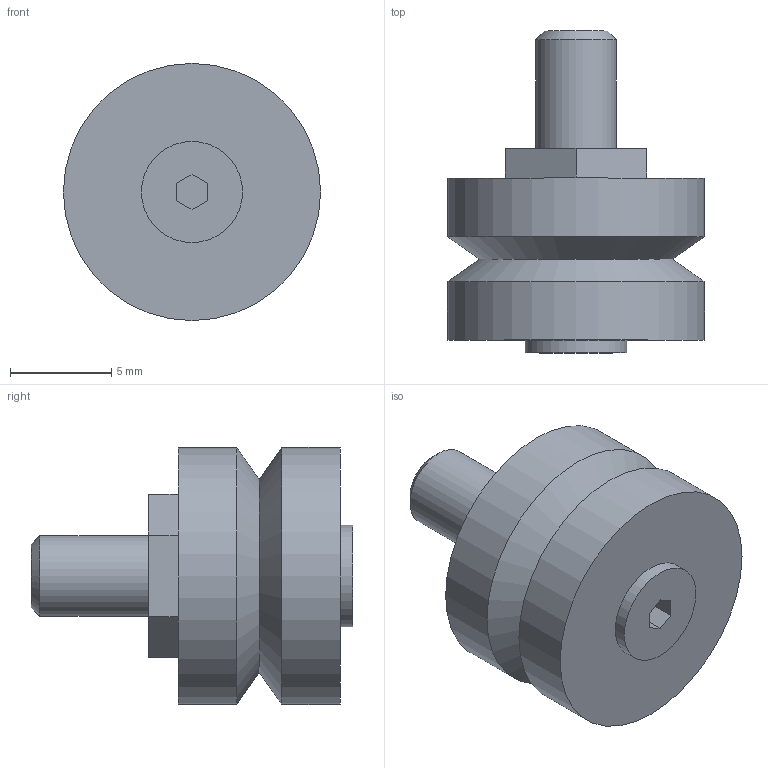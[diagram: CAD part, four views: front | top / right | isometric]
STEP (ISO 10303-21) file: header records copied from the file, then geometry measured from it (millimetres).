
FILE_DESCRIPTION( ( 'STEP AP203' ), '1' );
FILE_NAME( 'p:/temp/worker_122/temp/exporttempdir_3296_16_j487b/format_0/RBHJ13CNS.stp', '2022-06-02T04:31:11', ( 'License CC BY-ND 4.0' ), ( 'CADENAS' ), ' ', 'PARTsolutions', ' ' );
FILE_SCHEMA( ( 'CONFIG_CONTROL_DESIGN' ) );
Length unit declared in the file: millimetre
Products named in the file (1): _RBHJ13CNS
Bounding box: 12.7 x 15.9 x 12.7 mm (x, y, z)
Volume: 1087.1 mm3; surface area: 755.1 mm2
Topology: 1 solids, 1 shells, 25 faces, 54 edges, 35 vertices
Faces by surface type: plane 18, cylinder 4, cone 3
Full cylindrical faces by diameter (mm): 4 x1, 5 x1, 12.7 x2
Entity records: 674 total; most frequent: DIRECTION 108, CARTESIAN_POINT 106, ORIENTED_EDGE 92, EDGE_CURVE 46, AXIS2_PLACEMENT_3D 36, EDGE_LOOP 36, LINE 36, VECTOR 36
